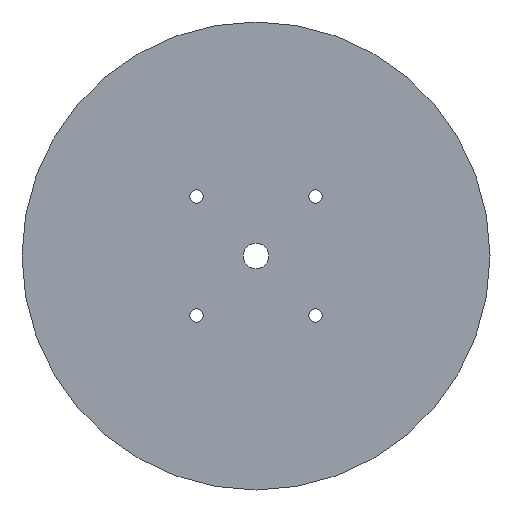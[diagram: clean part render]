
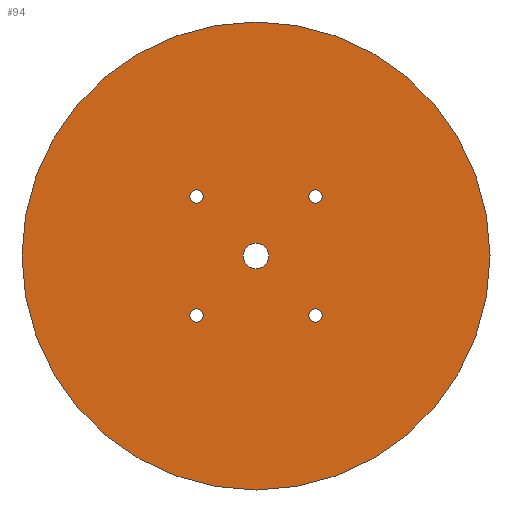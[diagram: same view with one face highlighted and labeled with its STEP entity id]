
A CAD part, front view. The second image highlights one B-rep face of the part: STEP entity #94.
In plain terms, the highlighted planar face has unit normal (0, -1, 0).
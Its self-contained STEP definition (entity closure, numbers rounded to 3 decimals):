
#50 = CARTESIAN_POINT ( 'NONE',  ( -14., 0., 12.4 ) ) ;
#59 = CIRCLE ( 'NONE', #865, 3. ) ;
#79 = CARTESIAN_POINT ( 'NONE',  ( 14., 0., 14. ) ) ;
#94 = ADVANCED_FACE ( 'NONE', ( #2661, #1200, #1442, #2699, #752, #918 ), #99, .F. ) ;
#99 = PLANE ( 'NONE',  #1872 ) ;
#126 = EDGE_CURVE ( 'NONE', #1383, #1136, #2727, .T. ) ;
#142 = ORIENTED_EDGE ( 'NONE', *, *, #1744, .T. ) ;
#171 = AXIS2_PLACEMENT_3D ( 'NONE', #1813, #2363, #3128 ) ;
#181 = ORIENTED_EDGE ( 'NONE', *, *, #1814, .T. ) ;
#182 = ORIENTED_EDGE ( 'NONE', *, *, #1504, .T. ) ;
#232 = CIRCLE ( 'NONE', #322, 1.6 ) ;
#247 = CARTESIAN_POINT ( 'NONE',  ( -14., 0., 14. ) ) ;
#290 = AXIS2_PLACEMENT_3D ( 'NONE', #247, #2063, #1021 ) ;
#322 = AXIS2_PLACEMENT_3D ( 'NONE', #2395, #1809, #2599 ) ;
#348 = CIRCLE ( 'NONE', #1660, 3. ) ;
#392 = AXIS2_PLACEMENT_3D ( 'NONE', #79, #1089, #2665 ) ;
#436 = CARTESIAN_POINT ( 'NONE',  ( -14., 0., 15.6 ) ) ;
#439 = EDGE_CURVE ( 'NONE', #2293, #3182, #2219, .T. ) ;
#455 = VERTEX_POINT ( 'NONE', #436 ) ;
#481 = CARTESIAN_POINT ( 'NONE',  ( 14., 0., -15.6 ) ) ;
#495 = DIRECTION ( 'NONE',  ( 0., 0., 1. ) ) ;
#515 = CARTESIAN_POINT ( 'NONE',  ( 14., 0., -14. ) ) ;
#576 = CIRCLE ( 'NONE', #171, 1.6 ) ;
#579 = AXIS2_PLACEMENT_3D ( 'NONE', #2619, #2825, #1568 ) ;
#582 = EDGE_LOOP ( 'NONE', ( #181, #182 ) ) ;
#622 = ORIENTED_EDGE ( 'NONE', *, *, #1369, .T. ) ;
#677 = DIRECTION ( 'NONE',  ( 0., 1., 0. ) ) ;
#686 = CARTESIAN_POINT ( 'NONE',  ( 14., 0., 14. ) ) ;
#752 = FACE_BOUND ( 'NONE', #582, .T. ) ;
#763 = CARTESIAN_POINT ( 'NONE',  ( 0., 0., 3. ) ) ;
#803 = CARTESIAN_POINT ( 'NONE',  ( 14., 0., 12.4 ) ) ;
#823 = AXIS2_PLACEMENT_3D ( 'NONE', #1090, #3121, #1337 ) ;
#852 = CARTESIAN_POINT ( 'NONE',  ( 0., 0., -3. ) ) ;
#862 = EDGE_LOOP ( 'NONE', ( #622, #3169 ) ) ;
#865 = AXIS2_PLACEMENT_3D ( 'NONE', #2064, #1520, #495 ) ;
#904 = ORIENTED_EDGE ( 'NONE', *, *, #2361, .T. ) ;
#918 = FACE_OUTER_BOUND ( 'NONE', #1553, .T. ) ;
#975 = DIRECTION ( 'NONE',  ( 0., 0., 1. ) ) ;
#983 = CARTESIAN_POINT ( 'NONE',  ( 0., 0., 55. ) ) ;
#1008 = EDGE_CURVE ( 'NONE', #1723, #455, #1143, .T. ) ;
#1021 = DIRECTION ( 'NONE',  ( 0., 0., 1. ) ) ;
#1089 = DIRECTION ( 'NONE',  ( 0., 1., 0. ) ) ;
#1090 = CARTESIAN_POINT ( 'NONE',  ( -14., 0., -14. ) ) ;
#1119 = ORIENTED_EDGE ( 'NONE', *, *, #1207, .T. ) ;
#1136 = VERTEX_POINT ( 'NONE', #1294 ) ;
#1142 = DIRECTION ( 'NONE',  ( 0., 0., 1. ) ) ;
#1143 = CIRCLE ( 'NONE', #290, 1.6 ) ;
#1151 = EDGE_LOOP ( 'NONE', ( #3224, #1119 ) ) ;
#1157 = DIRECTION ( 'NONE',  ( 0., 0., 1. ) ) ;
#1172 = AXIS2_PLACEMENT_3D ( 'NONE', #686, #677, #1921 ) ;
#1200 = FACE_BOUND ( 'NONE', #1762, .T. ) ;
#1207 = EDGE_CURVE ( 'NONE', #3182, #2293, #1745, .T. ) ;
#1294 = CARTESIAN_POINT ( 'NONE',  ( 0., 0., -55. ) ) ;
#1313 = EDGE_CURVE ( 'NONE', #1682, #2522, #2560, .T. ) ;
#1337 = DIRECTION ( 'NONE',  ( 0., 0., 1. ) ) ;
#1369 = EDGE_CURVE ( 'NONE', #455, #1723, #576, .T. ) ;
#1383 = VERTEX_POINT ( 'NONE', #983 ) ;
#1442 = FACE_BOUND ( 'NONE', #862, .T. ) ;
#1470 = VERTEX_POINT ( 'NONE', #1727 ) ;
#1504 = EDGE_CURVE ( 'NONE', #1889, #3315, #59, .T. ) ;
#1520 = DIRECTION ( 'NONE',  ( 0., 1., 0. ) ) ;
#1553 = EDGE_LOOP ( 'NONE', ( #2234, #1668 ) ) ;
#1568 = DIRECTION ( 'NONE',  ( 0., 0., 1. ) ) ;
#1600 = CIRCLE ( 'NONE', #1172, 1.6 ) ;
#1635 = CARTESIAN_POINT ( 'NONE',  ( 14., 0., 15.6 ) ) ;
#1651 = VERTEX_POINT ( 'NONE', #2055 ) ;
#1660 = AXIS2_PLACEMENT_3D ( 'NONE', #2165, #2439, #2921 ) ;
#1668 = ORIENTED_EDGE ( 'NONE', *, *, #126, .F. ) ;
#1682 = VERTEX_POINT ( 'NONE', #803 ) ;
#1723 = VERTEX_POINT ( 'NONE', #50 ) ;
#1727 = CARTESIAN_POINT ( 'NONE',  ( -14., 0., -15.6 ) ) ;
#1744 = EDGE_CURVE ( 'NONE', #1470, #1651, #2789, .T. ) ;
#1745 = CIRCLE ( 'NONE', #2303, 1.6 ) ;
#1762 = EDGE_LOOP ( 'NONE', ( #1845, #2455 ) ) ;
#1809 = DIRECTION ( 'NONE',  ( 0., 1., 0. ) ) ;
#1813 = CARTESIAN_POINT ( 'NONE',  ( -14., 0., 14. ) ) ;
#1814 = EDGE_CURVE ( 'NONE', #3315, #1889, #348, .T. ) ;
#1845 = ORIENTED_EDGE ( 'NONE', *, *, #2130, .T. ) ;
#1872 = AXIS2_PLACEMENT_3D ( 'NONE', #1915, #1924, #1142 ) ;
#1889 = VERTEX_POINT ( 'NONE', #852 ) ;
#1915 = CARTESIAN_POINT ( 'NONE',  ( 0., 0., 0. ) ) ;
#1921 = DIRECTION ( 'NONE',  ( 0., 0., 1. ) ) ;
#1924 = DIRECTION ( 'NONE',  ( 0., 1., 0. ) ) ;
#1992 = DIRECTION ( 'NONE',  ( 0., 1., 0. ) ) ;
#2013 = CIRCLE ( 'NONE', #3039, 55. ) ;
#2019 = CARTESIAN_POINT ( 'NONE',  ( 14., 0., -12.4 ) ) ;
#2055 = CARTESIAN_POINT ( 'NONE',  ( -14., 0., -12.4 ) ) ;
#2063 = DIRECTION ( 'NONE',  ( 0., 1., 0. ) ) ;
#2064 = CARTESIAN_POINT ( 'NONE',  ( 0., 0., 0. ) ) ;
#2067 = DIRECTION ( 'NONE',  ( 0., 0., 1. ) ) ;
#2130 = EDGE_CURVE ( 'NONE', #2522, #1682, #1600, .T. ) ;
#2165 = CARTESIAN_POINT ( 'NONE',  ( 0., 0., 0. ) ) ;
#2219 = CIRCLE ( 'NONE', #579, 1.6 ) ;
#2234 = ORIENTED_EDGE ( 'NONE', *, *, #2710, .F. ) ;
#2293 = VERTEX_POINT ( 'NONE', #2019 ) ;
#2303 = AXIS2_PLACEMENT_3D ( 'NONE', #515, #2344, #2067 ) ;
#2344 = DIRECTION ( 'NONE',  ( 0., 1., 0. ) ) ;
#2361 = EDGE_CURVE ( 'NONE', #1651, #1470, #232, .T. ) ;
#2363 = DIRECTION ( 'NONE',  ( 0., 1., 0. ) ) ;
#2395 = CARTESIAN_POINT ( 'NONE',  ( -14., 0., -14. ) ) ;
#2437 = CARTESIAN_POINT ( 'NONE',  ( 0., 0., 0. ) ) ;
#2439 = DIRECTION ( 'NONE',  ( 0., 1., 0. ) ) ;
#2455 = ORIENTED_EDGE ( 'NONE', *, *, #1313, .T. ) ;
#2509 = AXIS2_PLACEMENT_3D ( 'NONE', #2437, #2918, #1157 ) ;
#2522 = VERTEX_POINT ( 'NONE', #1635 ) ;
#2560 = CIRCLE ( 'NONE', #392, 1.6 ) ;
#2599 = DIRECTION ( 'NONE',  ( 0., 0., 1. ) ) ;
#2619 = CARTESIAN_POINT ( 'NONE',  ( 14., 0., -14. ) ) ;
#2661 = FACE_BOUND ( 'NONE', #1151, .T. ) ;
#2665 = DIRECTION ( 'NONE',  ( 0., 0., 1. ) ) ;
#2699 = FACE_BOUND ( 'NONE', #3257, .T. ) ;
#2710 = EDGE_CURVE ( 'NONE', #1136, #1383, #2013, .T. ) ;
#2727 = CIRCLE ( 'NONE', #2509, 55. ) ;
#2732 = CARTESIAN_POINT ( 'NONE',  ( 0., 0., 0. ) ) ;
#2789 = CIRCLE ( 'NONE', #823, 1.6 ) ;
#2825 = DIRECTION ( 'NONE',  ( 0., 1., 0. ) ) ;
#2918 = DIRECTION ( 'NONE',  ( 0., 1., 0. ) ) ;
#2921 = DIRECTION ( 'NONE',  ( 0., 0., 1. ) ) ;
#3039 = AXIS2_PLACEMENT_3D ( 'NONE', #2732, #1992, #975 ) ;
#3121 = DIRECTION ( 'NONE',  ( 0., 1., 0. ) ) ;
#3128 = DIRECTION ( 'NONE',  ( 0., 0., 1. ) ) ;
#3169 = ORIENTED_EDGE ( 'NONE', *, *, #1008, .T. ) ;
#3182 = VERTEX_POINT ( 'NONE', #481 ) ;
#3224 = ORIENTED_EDGE ( 'NONE', *, *, #439, .T. ) ;
#3257 = EDGE_LOOP ( 'NONE', ( #904, #142 ) ) ;
#3315 = VERTEX_POINT ( 'NONE', #763 ) ;
